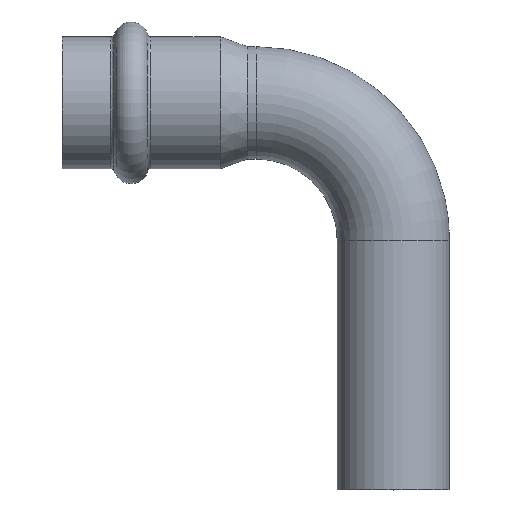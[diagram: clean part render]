
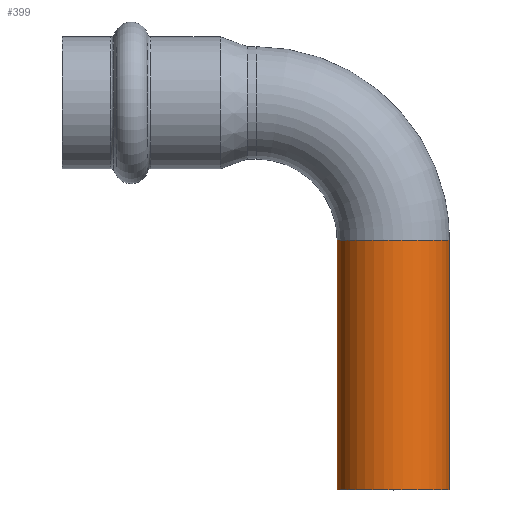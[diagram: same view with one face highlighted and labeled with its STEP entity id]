
A CAD part, top view. The second image highlights one B-rep face of the part: STEP entity #399.
In plain terms, the highlighted cylindrical face has radius 9 mm (diameter 18 mm), a full revolution.
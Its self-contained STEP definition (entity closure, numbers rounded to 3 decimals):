
#372=CARTESIAN_POINT('',(22.0,-22.0,0.0));
#373=DIRECTION('',(0.,-1.0,0.0));
#374=DIRECTION('',(0.0,0.0,1.0));
#375=AXIS2_PLACEMENT_3D('',#372,#373,#374);
#376=CYLINDRICAL_SURFACE('',#375,9.);
#377=CARTESIAN_POINT('',(22.,-62.,-9.));
#378=VERTEX_POINT('',#377);
#379=CARTESIAN_POINT('',(22.,-62.,0.0));
#380=DIRECTION('',(0.0,1.0,0.0));
#381=DIRECTION('',(0.0,0.0,1.0));
#382=AXIS2_PLACEMENT_3D('',#379,#380,#381);
#383=CIRCLE('',#382,9.);
#384=EDGE_CURVE('',#378,#378,#383,.T.);
#385=ORIENTED_EDGE('',*,*,#384,.T.);
#386=EDGE_LOOP('',(#385));
#387=FACE_OUTER_BOUND('',#386,.T.);
#388=CARTESIAN_POINT('',(22.,-22.,-9.));
#389=VERTEX_POINT('',#388);
#390=CARTESIAN_POINT('',(22.0,-22.0,0.0));
#391=DIRECTION('',(0.0,1.0,0.0));
#392=DIRECTION('',(0.0,0.0,1.0));
#393=AXIS2_PLACEMENT_3D('',#390,#391,#392);
#394=CIRCLE('',#393,9.);
#395=EDGE_CURVE('',#389,#389,#394,.T.);
#396=ORIENTED_EDGE('',*,*,#395,.F.);
#397=EDGE_LOOP('',(#396));
#398=FACE_BOUND('',#397,.T.);
#399=ADVANCED_FACE('',(#387,#398),#376,.T.);
